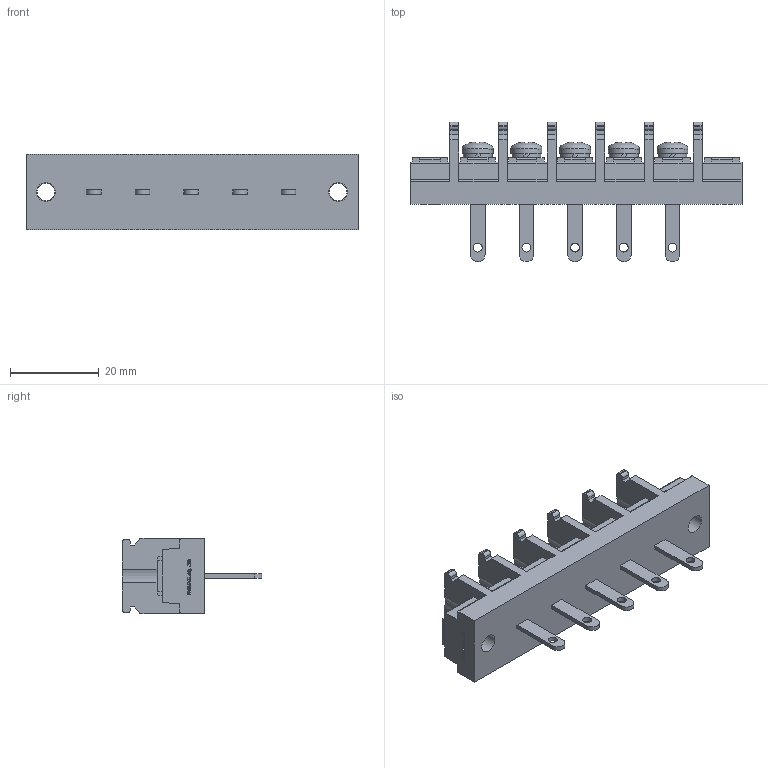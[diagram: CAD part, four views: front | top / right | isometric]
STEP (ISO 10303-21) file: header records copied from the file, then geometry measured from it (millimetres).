
FILE_DESCRIPTION(/* description */ ('Alibre Inc.'),/* implementation_level */ '2;1');
FILE_NAME(/* name */ 'export0',/* time_stamp */ '2015-10-19T19:14:48+09:00',/* author */ (''),/* organization */ (''),/* preprocessor_version */ 'ST-DEVELOPER v14',/* originating_system */ 'Alibre',/* authorisation */ '');
FILE_SCHEMA (('CONFIG_CONTROL_DESIGN'));
Length unit declared in the file: centimetre
Products named in the file (1): ID_1
Bounding box: 75 x 31.5 x 17 mm (x, y, z)
Volume: 13473.8 mm3; surface area: 8036 mm2
Topology: 1 solids, 1 shells, 824 faces, 2281 edges, 1518 vertices
Faces by surface type: plane 578, cylinder 107, bspline 104, cone 20, torus 10, sphere 5
Full cylindrical faces by diameter (mm): 2 x5, 4 x7, 4.2 x2, 6.5 x5, 7 x5
Entity records: 25480 total; most frequent: CARTESIAN_POINT 5626, ORIENTED_EDGE 4460, DIRECTION 3184, EDGE_CURVE 2230, VECTOR 1612, LINE 1612, VERTEX_POINT 1496, AXIS2_PLACEMENT_3D 1070
